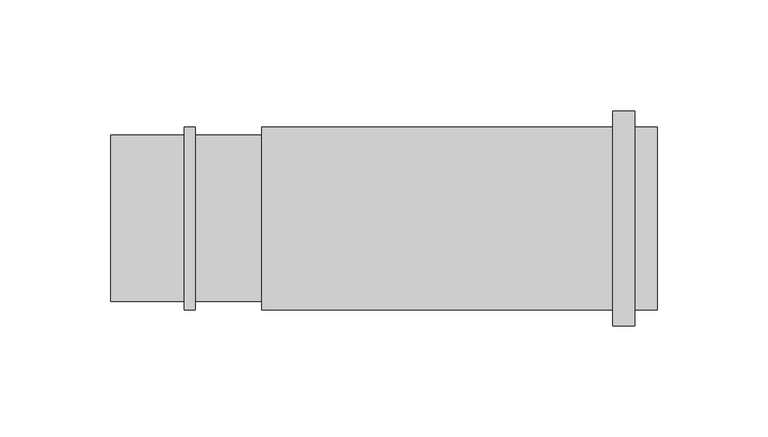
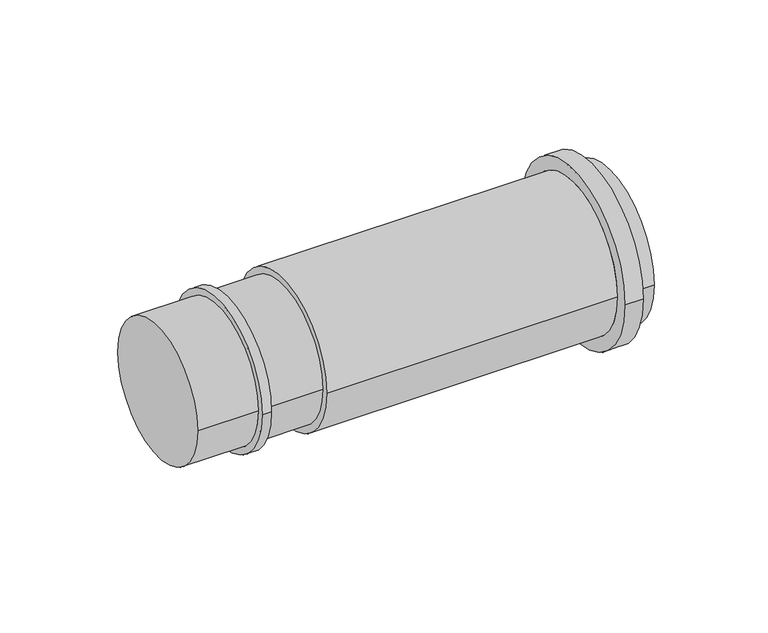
"""IFC4 building model written with IfcOpenShell, lengths in millimetres: pipe fitting geometry, NLRS_52_PIF_UN_PE expansiemof met dubbele rand_PRO_103905_geb : DN30-150 / ø32-160 - OD."""

from ifc_helpers import new_model, si_unit, frame, origin, place, context, project, spatial, polyline, circle_curve, source, transform, mapped, element, save
from ifc_brep_helpers import plane_surface, cylinder_surface, revolved_surface, advanced_brep


def pipe_fitting_67a79f44(model_context):
    return source(origin(), model_context, "Body", "AdvancedBrep", [
        advanced_brep(
        [(-85.0, -41.25, 0.0), (-85.0, 41.25, 0.0), (-85.0, 37.5, 0.0), (-85.0, -37.5, 0.0), (-90.0, -41.25, 0.0), (-90.0, 41.25, 0.0), (-90.0, -37.5, 0.0), (-90.0, 37.5, 0.0), (-55.0, -37.5, 0.0), (-55.0, 37.5, 0.0), (-123.0, -37.5, 0.0), (-123.0, 37.5, 0.0)],
        [
            (0, 1, circle_curve(frame((-85.0, 0.0, 0.0), z_axis=(1.0, 0.0, 0.0), x_axis=(0.0, 1.0, 0.0)), 41.25)),
            (1, 0, circle_curve(frame((-85.0, 0.0, 0.0), z_axis=(1.0, 0.0, 0.0), x_axis=(0.0, 1.0, 0.0)), 41.25)),
            (2, 3, circle_curve(frame((-85.0, 0.0, 0.0), z_axis=(-1.0, 0.0, 0.0), x_axis=(0.0, 1.0, 0.0)), 37.5)),
            (3, 2, circle_curve(frame((-85.0, 0.0, 0.0), z_axis=(-1.0, 0.0, 0.0), x_axis=(0.0, 1.0, 0.0)), 37.5)),
            (4, 5, circle_curve(frame((-90.0, 0.0, 0.0), z_axis=(-1.0, 0.0, 0.0), x_axis=(0.0, 1.0, 0.0)), 41.25)),
            (5, 4, circle_curve(frame((-90.0, 0.0, 0.0), z_axis=(-1.0, 0.0, 0.0), x_axis=(0.0, 1.0, 0.0)), 41.25)),
            (6, 7, circle_curve(frame((-90.0, 0.0, 0.0), z_axis=(1.0, 0.0, 0.0), x_axis=(0.0, 1.0, 0.0)), 37.5)),
            (7, 6, circle_curve(frame((-90.0, 0.0, 0.0), z_axis=(1.0, 0.0, 0.0), x_axis=(0.0, 1.0, 0.0)), 37.5)),
            (0, 4),
            (5, 1),
            (8, 9, circle_curve(frame((-55.0, 0.0, 0.0), z_axis=(1.0, 0.0, 0.0), x_axis=(0.0, 1.0, 0.0)), 37.5)),
            (9, 8, circle_curve(frame((-55.0, 0.0, 0.0), z_axis=(1.0, 0.0, 0.0), x_axis=(0.0, 1.0, 0.0)), 37.5)),
            (10, 11, circle_curve(frame((-123.0, 0.0, 0.0), z_axis=(-1.0, 0.0, 0.0), x_axis=(0.0, 1.0, 0.0)), 37.5)),
            (11, 10, circle_curve(frame((-123.0, 0.0, 0.0), z_axis=(-1.0, 0.0, 0.0), x_axis=(0.0, 1.0, 0.0)), 37.5)),
            (8, 3),
            (2, 9),
            (11, 7),
            (6, 10),
        ],
        [
            plane_surface(frame((-85.0, 41.25, 0.0), z_axis=(1.0, 0.0, 0.0), x_axis=(0.0, 0.0, 1.0))),
            plane_surface(frame((-90.0, 41.25, 0.0), z_axis=(-1.0, 0.0, 0.0), x_axis=(0.0, 0.0, -1.0))),
            cylinder_surface(frame((-90.0, 0.0, 0.0), z_axis=(1.0, 0.0, 0.0), x_axis=(0.0, 1.0, 0.0)), 41.25),
            plane_surface(frame((-55.0, 37.5, 0.0), z_axis=(1.0, 0.0, 0.0), x_axis=(0.0, 0.0, 1.0))),
            plane_surface(frame((-123.0, 37.5, 0.0), z_axis=(-1.0, 0.0, 0.0), x_axis=(0.0, 0.0, -1.0))),
            cylinder_surface(frame((-123.0, 0.0, 0.0), z_axis=(1.0, 0.0, 0.0), x_axis=(0.0, 1.0, 0.0)), 37.5),
        ],
        [
            (0, [[1, 2], [3, 4]]),
            (1, [[5, 6], [7, 8]]),
            (2, [[-1, 9, -6, 10]]),
            (2, [[-2, -10, -5, -9]]),
            (3, [[11, 12]]),
            (4, [[13, 14]]),
            (5, [[-11, 15, -3, 16]]),
            (5, [[-14, 17, -7, 18]]),
            (5, [[-12, -16, -4, -15]]),
            (5, [[-13, -18, -8, -17]]),
        ],
    ),
        advanced_brep(
        [(123.0, -41.25, 0.0), (123.0, 41.25, 0.0), (123.0, 37.5, 0.0), (123.0, -37.5, 0.0), (-55.0, -41.25, 0.0), (-55.0, 41.25, 0.0), (113.0, -41.25, 0.0), (113.0, 41.25, 0.0), (103.0, 41.25, 0.0), (103.0, -41.25, 0.0), (-12.0, -37.5, 0.0), (-12.0, 37.5, 0.0), (113.0, -48.5, 0.0), (113.0, 48.5, 0.0), (103.0, -48.5, 0.0), (103.0, 48.5, 0.0)],
        [
            (0, 1, circle_curve(frame((123.0, 0.0, 0.0), z_axis=(1.0, 0.0, 0.0), x_axis=(0.0, 1.0, 0.0)), 41.25)),
            (1, 0, circle_curve(frame((123.0, 0.0, 0.0), z_axis=(1.0, 0.0, 0.0), x_axis=(0.0, 1.0, 0.0)), 41.25)),
            (2, 3, circle_curve(frame((123.0, 0.0, 0.0), z_axis=(-1.0, 0.0, 0.0), x_axis=(0.0, 1.0, 0.0)), 37.5)),
            (3, 2, circle_curve(frame((123.0, 0.0, 0.0), z_axis=(-1.0, 0.0, 0.0), x_axis=(0.0, 1.0, 0.0)), 37.5)),
            (4, 5, circle_curve(frame((-55.0, 0.0, 0.0), z_axis=(-1.0, 0.0, 0.0), x_axis=(0.0, 1.0, 0.0)), 41.25)),
            (5, 4, circle_curve(frame((-55.0, 0.0, 0.0), z_axis=(-1.0, 0.0, 0.0), x_axis=(0.0, 1.0, 0.0)), 41.25)),
            (0, 6),
            (6, 7, circle_curve(frame((113.0, 0.0, 0.0), z_axis=(1.0, 0.0, 0.0), x_axis=(0.0, 1.0, 0.0)), 41.25)),
            (7, 1),
            (5, 8),
            (8, 9, circle_curve(frame((103.0, 0.0, 0.0), z_axis=(-1.0, 0.0, 0.0), x_axis=(0.0, 1.0, 0.0)), 41.25)),
            (9, 4),
            (7, 6, circle_curve(frame((113.0, 0.0, 0.0), z_axis=(1.0, 0.0, 0.0), x_axis=(0.0, 1.0, 0.0)), 41.25)),
            (9, 8, circle_curve(frame((103.0, 0.0, 0.0), z_axis=(-1.0, 0.0, 0.0), x_axis=(0.0, 1.0, 0.0)), 41.25)),
            (10, 11, circle_curve(frame((-12.0, 0.0, 0.0), z_axis=(1.0, 0.0, 0.0), x_axis=(0.0, 1.0, 0.0)), 37.5)),
            (11, 10, circle_curve(frame((-12.0, 0.0, 0.0), z_axis=(1.0, 0.0, 0.0), x_axis=(0.0, 1.0, 0.0)), 37.5)),
            (10, 3),
            (2, 11),
            (12, 13, circle_curve(frame((113.0, 0.0, 0.0), z_axis=(1.0, 0.0, 0.0), x_axis=(0.0, 1.0, 0.0)), 48.5)),
            (13, 12, circle_curve(frame((113.0, 0.0, 0.0), z_axis=(1.0, 0.0, 0.0), x_axis=(0.0, 1.0, 0.0)), 48.5)),
            (14, 15, circle_curve(frame((103.0, 0.0, 0.0), z_axis=(-1.0, 0.0, 0.0), x_axis=(0.0, 1.0, 0.0)), 48.5)),
            (15, 14, circle_curve(frame((103.0, 0.0, 0.0), z_axis=(-1.0, 0.0, 0.0), x_axis=(0.0, 1.0, 0.0)), 48.5)),
            (12, 14),
            (15, 13),
        ],
        [
            plane_surface(frame((123.0, 41.25, 0.0), z_axis=(1.0, 0.0, 0.0), x_axis=(0.0, 0.0, 1.0))),
            plane_surface(frame((-55.0, 41.25, 0.0), z_axis=(-1.0, 0.0, 0.0), x_axis=(0.0, 0.0, -1.0))),
            cylinder_surface(frame((-55.0, 0.0, 0.0), z_axis=(1.0, 0.0, 0.0), x_axis=(0.0, 1.0, 0.0)), 41.25),
            plane_surface(frame((-12.0, 37.5, 0.0), z_axis=(1.0, 0.0, 0.0), x_axis=(0.0, 0.0, -1.0))),
            revolved_surface(polyline([(123.0, 37.5, 0.0), (-12.0, 37.5, 0.0)]), (-12.0, 0.0, 0.0), (1.0, 0.0, 0.0)),
            plane_surface(frame((113.0, 41.25, 0.0), z_axis=(1.0, 0.0, 0.0), x_axis=(0.0, 0.0, -1.0))),
            plane_surface(frame((103.0, 41.25, 0.0), z_axis=(-1.0, 0.0, 0.0), x_axis=(0.0, 0.0, 1.0))),
            cylinder_surface(frame((0.0, 0.0, 0.0), z_axis=(1.0, 0.0, 0.0), x_axis=(0.0, 1.0, 0.0)), 48.5),
        ],
        [
            (0, [[1, 2], [3, 4]]),
            (1, [[5, 6]]),
            (2, [[-1, 7, 8, 9]]),
            (2, [[-6, 10, 11, 12]]),
            (2, [[-2, -9, 13, -7]]),
            (2, [[-5, -12, 14, -10]]),
            (3, [[15, 16]]),
            (4, [[-15, 17, -3, 18]]),
            (4, [[-16, -18, -4, -17]]),
            (5, [[19, 20], [-8, -13]]),
            (6, [[21, 22], [-11, -14]]),
            (7, [[-19, 23, -22, 24]]),
            (7, [[-20, -24, -21, -23]]),
        ],
    ),
    ])


if __name__ == "__main__":
    model = new_model("IFC4")
    model_context = context("Model", 3, world=origin())
    ifc_project = project(units=[si_unit("LENGTHUNIT", "METRE", prefix="MILLI")], contexts=[model_context])
    site = spatial("IfcSite", under=ifc_project)
    building = spatial("IfcBuilding", under=site)
    placement = place(None, origin())
    pipe_fitting_shape = pipe_fitting_67a79f44(model_context)
    element("IfcPipeFitting", 1, ObjectType="NLRS_52_PIF_UN_PE expansiemof met dubbele rand_PRO_103905_geb : DN30-150 / ø32-160 - OD", at=placement, inside=building, context=model_context, shape_type="MappedRepresentation", body=[
        mapped(pipe_fitting_shape, transform((0.0, 0.0, 0.0), x_axis=(1.0, 0.0, 0.0), y_axis=(0.0, 1.0, 0.0), z_axis=(0.0, 0.0, 1.0))),
    ])
    save(model, "model.ifc")
